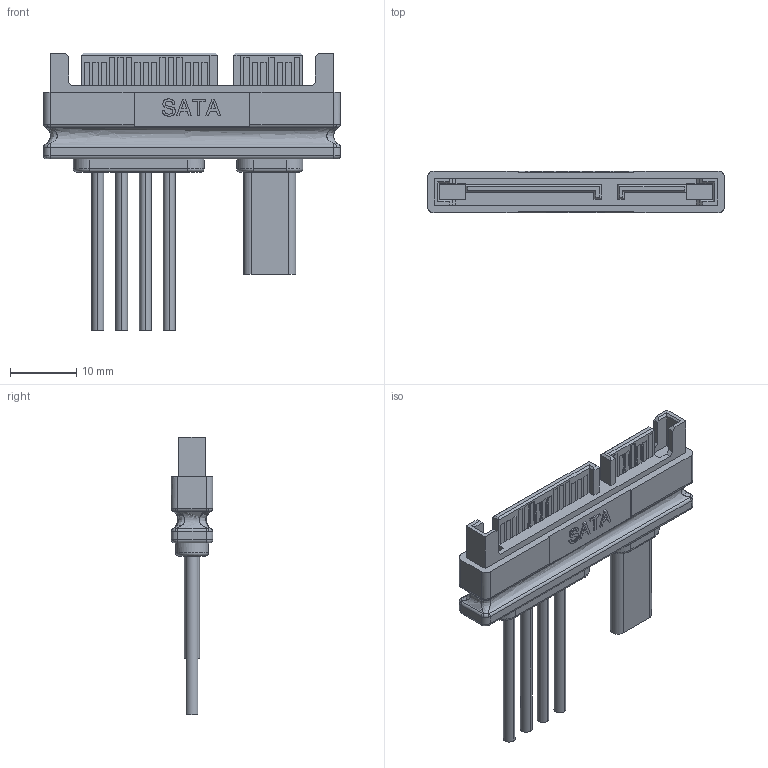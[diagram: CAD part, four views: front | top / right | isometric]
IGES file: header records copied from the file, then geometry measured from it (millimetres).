
Start section:  PTC IGES file: SATA 22P Male Straight(.igs
Global section: file name: SATA 22P Male Straight(.igs; native system: Creo Parametric by Parametric Technology Corporation; preprocessor: 2012130; author: Linoliu; organization: Unknown; date: 20140707.161512; units: millimetre
Bounding box: 44.9 x 6.3 x 42 mm (x, y, z)
Surface area: 3235.8 mm2 (no closed solid volume)
Topology: 0 solids, 0 shells, 473 faces, 2564 edges, 2564 vertices
Faces by surface type: bspline 320, extrusion 103, revolution 50
